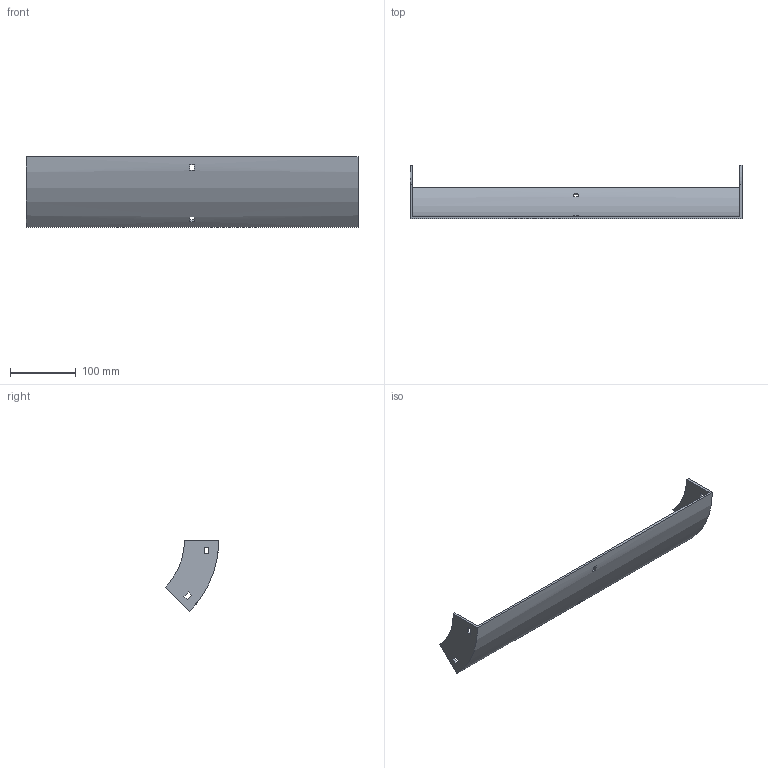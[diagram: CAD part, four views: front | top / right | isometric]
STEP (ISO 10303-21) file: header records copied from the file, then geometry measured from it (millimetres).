
FILE_DESCRIPTION (( 'STEP AP214' ), '1' );
FILE_NAME ('31B1B500.step', '2025-02-21T09:46:50', ( '' ), ( '' ), 'SwSTEP 2.0', 'SolidWorks 2023', '' );
FILE_SCHEMA (( 'AUTOMOTIVE_DESIGN' ));
Length unit declared in the file: millimetre
Products named in the file (1): 31B1B500
Bounding box: 504 x 81.29 x 107.48 mm (x, y, z)
Volume: 239901 mm3; surface area: 142547.1 mm2
Topology: 1 solids, 1 shells, 34 faces, 96 edges, 64 vertices
Faces by surface type: plane 30, cylinder 4
Entity records: 1143 total; most frequent: CARTESIAN_POINT 195, ORIENTED_EDGE 192, DIRECTION 182, EDGE_CURVE 96, VECTOR 80, LINE 80, VERTEX_POINT 64, AXIS2_PLACEMENT_3D 51
